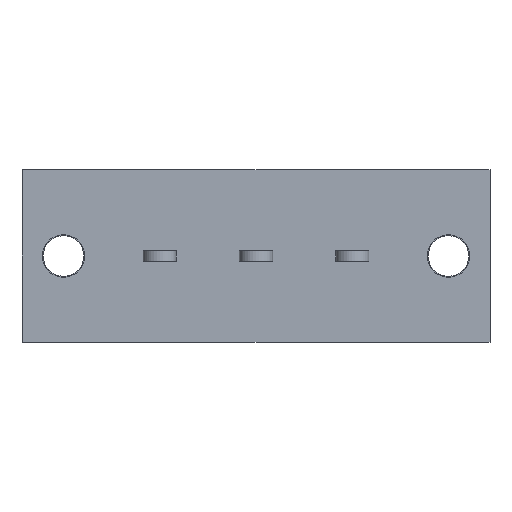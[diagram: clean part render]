
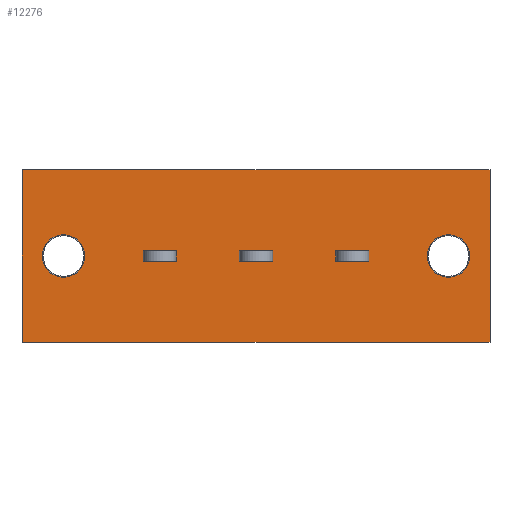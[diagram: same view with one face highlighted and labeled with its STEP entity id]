
A CAD part, front view. The second image highlights one B-rep face of the part: STEP entity #12276.
In plain terms, the highlighted planar face has unit normal (0, -1, 0).
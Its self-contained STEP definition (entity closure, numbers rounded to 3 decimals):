
#596=CIRCLE('',#12714,2.1);
#682=CIRCLE('',#13066,2.1);
#780=VERTEX_POINT('',#15972);
#781=VERTEX_POINT('',#15973);
#785=VERTEX_POINT('',#15983);
#796=VERTEX_POINT('',#16017);
#890=VERTEX_POINT('',#16294);
#1221=VERTEX_POINT('',#17766);
#1222=VERTEX_POINT('',#17768);
#1266=VERTEX_POINT('',#17956);
#1267=VERTEX_POINT('',#17957);
#1271=VERTEX_POINT('',#17967);
#1298=VERTEX_POINT('',#18034);
#1431=VERTEX_POINT('',#18473);
#1438=VERTEX_POINT('',#18490);
#1439=VERTEX_POINT('',#18492);
#1440=VERTEX_POINT('',#18493);
#1441=VERTEX_POINT('',#18495);
#1442=VERTEX_POINT('',#18497);
#1443=VERTEX_POINT('',#18500);
#2025=VECTOR('',#13450,1.);
#2029=VECTOR('',#13457,1.);
#2039=VECTOR('',#13489,1.);
#2042=VECTOR('',#13501,1.);
#2533=VECTOR('',#14232,1.);
#2570=VECTOR('',#14380,1.);
#2574=VECTOR('',#14387,1.);
#2598=VECTOR('',#14438,1.);
#2601=VECTOR('',#14450,1.);
#2728=VECTOR('',#14788,1.);
#2737=VECTOR('',#14800,1.);
#2738=VECTOR('',#14801,1.);
#2739=VECTOR('',#14802,1.);
#2740=VECTOR('',#14803,1.);
#2741=VECTOR('',#14804,1.);
#2742=VECTOR('',#14805,1.);
#3393=LINE('',#15971,#2025);
#3397=LINE('',#15982,#2029);
#3407=LINE('',#16016,#2039);
#3410=LINE('',#16027,#2042);
#3901=LINE('',#17767,#2533);
#3938=LINE('',#17955,#2570);
#3942=LINE('',#17966,#2574);
#3966=LINE('',#18033,#2598);
#3969=LINE('',#18044,#2601);
#4096=LINE('',#18472,#2728);
#4105=LINE('',#18491,#2737);
#4106=LINE('',#18494,#2738);
#4107=LINE('',#18496,#2739);
#4108=LINE('',#18498,#2740);
#4109=LINE('',#18499,#2741);
#4110=LINE('',#18501,#2742);
#4763=EDGE_CURVE('',#780,#781,#3393,.T.);
#4768=EDGE_CURVE('',#785,#780,#3397,.T.);
#4785=EDGE_CURVE('',#781,#796,#3407,.T.);
#4790=EDGE_CURVE('',#796,#785,#3410,.T.);
#4922=EDGE_CURVE('',#890,#890,#596,.T.);
#5416=EDGE_CURVE('',#1221,#1222,#3901,.T.);
#5490=EDGE_CURVE('',#1266,#1267,#3938,.T.);
#5495=EDGE_CURVE('',#1271,#1266,#3942,.T.);
#5528=EDGE_CURVE('',#1267,#1298,#3966,.T.);
#5533=EDGE_CURVE('',#1298,#1271,#3969,.T.);
#5727=EDGE_CURVE('',#1431,#1221,#4096,.T.);
#5736=EDGE_CURVE('',#1438,#1438,#682,.T.);
#5737=EDGE_CURVE('',#1439,#1440,#4105,.T.);
#5738=EDGE_CURVE('',#1440,#1441,#4106,.T.);
#5739=EDGE_CURVE('',#1441,#1442,#4107,.T.);
#5740=EDGE_CURVE('',#1442,#1439,#4108,.T.);
#5741=EDGE_CURVE('',#1443,#1222,#4109,.T.);
#5742=EDGE_CURVE('',#1443,#1431,#4110,.T.);
#8511=ORIENTED_EDGE('',*,*,#4768,.T.);
#8512=ORIENTED_EDGE('',*,*,#4763,.T.);
#8513=ORIENTED_EDGE('',*,*,#4785,.T.);
#8514=ORIENTED_EDGE('',*,*,#4790,.T.);
#8515=ORIENTED_EDGE('',*,*,#4922,.T.);
#8516=ORIENTED_EDGE('',*,*,#5736,.T.);
#8517=ORIENTED_EDGE('',*,*,#5495,.T.);
#8518=ORIENTED_EDGE('',*,*,#5490,.T.);
#8519=ORIENTED_EDGE('',*,*,#5528,.T.);
#8520=ORIENTED_EDGE('',*,*,#5533,.T.);
#8521=ORIENTED_EDGE('',*,*,#5737,.T.);
#8522=ORIENTED_EDGE('',*,*,#5738,.T.);
#8523=ORIENTED_EDGE('',*,*,#5739,.T.);
#8524=ORIENTED_EDGE('',*,*,#5740,.T.);
#8525=ORIENTED_EDGE('',*,*,#5741,.T.);
#8526=ORIENTED_EDGE('',*,*,#5416,.F.);
#8527=ORIENTED_EDGE('',*,*,#5727,.F.);
#8528=ORIENTED_EDGE('',*,*,#5742,.F.);
#10726=EDGE_LOOP('',(#8511,#8512,#8513,#8514));
#10727=EDGE_LOOP('',(#8515));
#10728=EDGE_LOOP('',(#8516));
#10729=EDGE_LOOP('',(#8517,#8518,#8519,#8520));
#10730=EDGE_LOOP('',(#8521,#8522,#8523,#8524));
#10731=EDGE_LOOP('',(#8525,#8526,#8527,#8528));
#11524=FACE_BOUND('',#10726,.T.);
#11525=FACE_BOUND('',#10727,.T.);
#11526=FACE_BOUND('',#10728,.T.);
#11527=FACE_BOUND('',#10729,.T.);
#11528=FACE_BOUND('',#10730,.T.);
#11529=FACE_BOUND('',#10731,.T.);
#12276=ADVANCED_FACE('',(#11524,#11525,#11526,#11527,#11528,#11529),#20981,
 .T.);
#12714=AXIS2_PLACEMENT_3D('',#16293,#13712,#13713);
#13065=AXIS2_PLACEMENT_3D('',#18488,#14797,$);
#13066=AXIS2_PLACEMENT_3D('',#18489,#14798,#14799);
#13450=DIRECTION('',(0.,0.,1.));
#13457=DIRECTION('',(-1.,0.,0.));
#13489=DIRECTION('',(1.,0.,0.));
#13501=DIRECTION('',(0.,0.,-1.));
#13712=DIRECTION('',(0.,1.,0.));
#13713=DIRECTION('',(-2.1,0.,0.));
#14232=DIRECTION('',(0.,0.,-1.));
#14380=DIRECTION('',(0.,0.,1.));
#14387=DIRECTION('',(-1.,0.,0.));
#14438=DIRECTION('',(1.,0.,0.));
#14450=DIRECTION('',(0.,0.,-1.));
#14788=DIRECTION('',(1.,0.,0.));
#14797=DIRECTION('',(0.,-1.,0.));
#14798=DIRECTION('',(0.,1.,0.));
#14799=DIRECTION('',(2.1,0.,0.));
#14800=DIRECTION('',(-1.,0.,0.));
#14801=DIRECTION('',(0.,0.,1.));
#14802=DIRECTION('',(1.,0.,0.));
#14803=DIRECTION('',(0.,0.,-1.));
#14804=DIRECTION('',(1.,0.,0.));
#14805=DIRECTION('',(0.,0.,1.));
#15971=CARTESIAN_POINT('',(3.8,0.,0.));
#15972=CARTESIAN_POINT('',(3.8,0.,-0.5));
#15973=CARTESIAN_POINT('',(3.8,0.,0.5));
#15982=CARTESIAN_POINT('',(7.475,0.,-0.5));
#15983=CARTESIAN_POINT('',(7.1,0.,-0.5));
#16016=CARTESIAN_POINT('',(7.475,0.,0.5));
#16017=CARTESIAN_POINT('',(7.1,0.,0.5));
#16027=CARTESIAN_POINT('',(7.1,0.,0.));
#16293=CARTESIAN_POINT('',(33.95,0.,0.));
#16294=CARTESIAN_POINT('',(36.05,0.,0.));
#17766=CARTESIAN_POINT('',(38.05,0.,8.5));
#17767=CARTESIAN_POINT('',(38.05,0.,8.5));
#17768=CARTESIAN_POINT('',(38.05,0.,-8.5));
#17955=CARTESIAN_POINT('',(22.8,0.,0.));
#17956=CARTESIAN_POINT('',(22.8,0.,-0.5));
#17957=CARTESIAN_POINT('',(22.8,0.,0.5));
#17966=CARTESIAN_POINT('',(16.975,0.,-0.5));
#17967=CARTESIAN_POINT('',(26.1,0.,-0.5));
#18033=CARTESIAN_POINT('',(16.975,0.,0.5));
#18034=CARTESIAN_POINT('',(26.1,0.,0.5));
#18044=CARTESIAN_POINT('',(26.1,0.,0.));
#18472=CARTESIAN_POINT('',(-8.15,0.,8.5));
#18473=CARTESIAN_POINT('',(-8.15,0.,8.5));
#18488=CARTESIAN_POINT('',(9.5,0.,0.));
#18489=CARTESIAN_POINT('',(-4.05,0.,0.));
#18490=CARTESIAN_POINT('',(-6.15,0.,0.));
#18491=CARTESIAN_POINT('',(12.225,0.,-0.5));
#18492=CARTESIAN_POINT('',(16.6,0.,-0.5));
#18493=CARTESIAN_POINT('',(13.3,0.,-0.5));
#18494=CARTESIAN_POINT('',(13.3,0.,0.));
#18495=CARTESIAN_POINT('',(13.3,0.,0.5));
#18496=CARTESIAN_POINT('',(12.225,0.,0.5));
#18497=CARTESIAN_POINT('',(16.6,0.,0.5));
#18498=CARTESIAN_POINT('',(16.6,0.,0.));
#18499=CARTESIAN_POINT('',(-8.15,0.,-8.5));
#18500=CARTESIAN_POINT('',(-8.15,0.,-8.5));
#18501=CARTESIAN_POINT('',(-8.15,0.,-8.5));
#20981=PLANE('',#13065);
